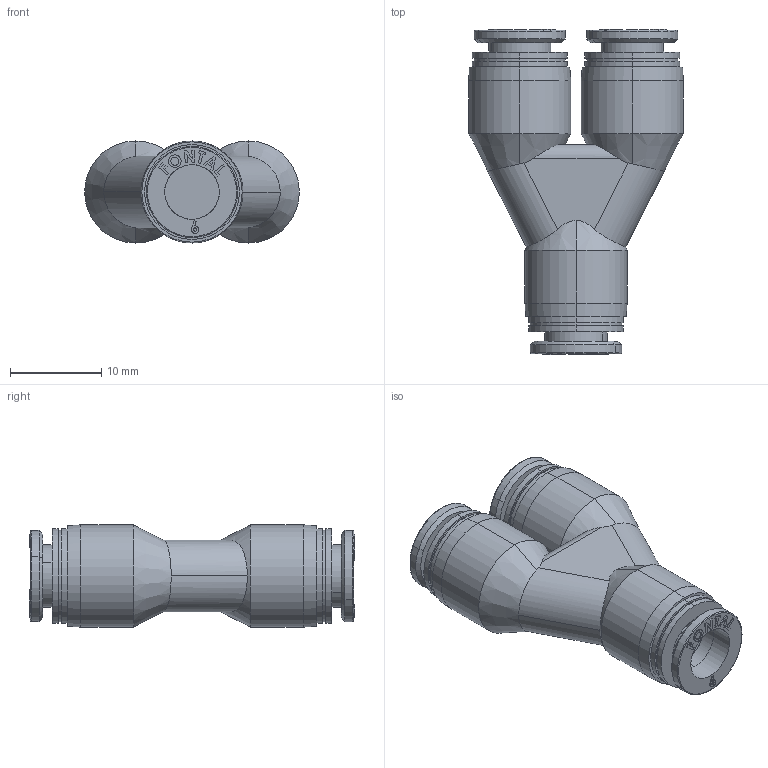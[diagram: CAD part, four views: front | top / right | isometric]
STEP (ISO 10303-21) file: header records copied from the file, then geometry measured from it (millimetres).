
FILE_DESCRIPTION (( 'STEP AP203' ), '1' );
FILE_NAME ('FPY6.STEP', '2016-01-14T21:10:03', ( '' ), ( '' ), 'SwSTEP 2.0', 'SolidWorks 2014', '' );
FILE_SCHEMA (( 'CONFIG_CONTROL_DESIGN' ));
Length unit declared in the file: millimetre
Products named in the file (3): FPY6; FPY6-A; FPC6-M5-A
Assembly tree (4 placements, depth 2):
  FPY6
    FPY6-A
    FPC6-M5-A  x3
Bounding box: 23.55 x 35.65 x 11.2 mm (x, y, z)
Volume: 3179.5 mm3; surface area: 3515 mm2
Topology: 4 solids, 4 shells, 341 faces, 831 edges, 546 vertices
Faces by surface type: plane 204, cylinder 62, bspline 51, cone 18, torus 6
Entity records: 6189 total; most frequent: CARTESIAN_POINT 2099, ORIENTED_EDGE 778, DIRECTION 736, EDGE_CURVE 389, VERTEX_POINT 254, AXIS2_PLACEMENT_3D 253, LINE 230, VECTOR 230
